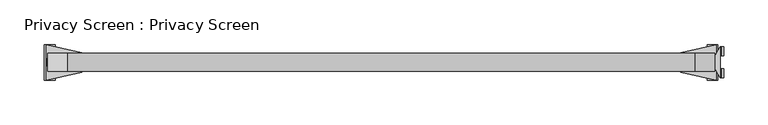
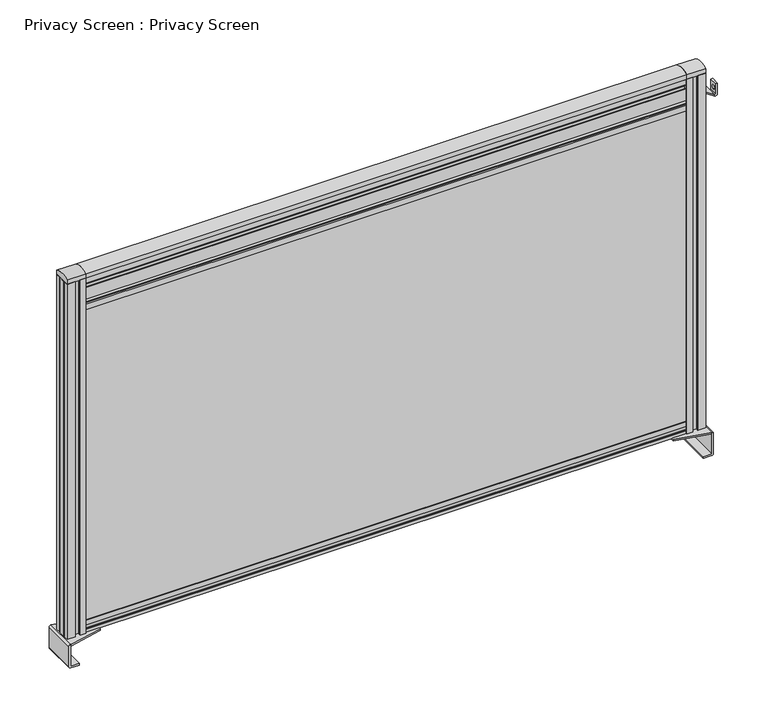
"""IFC4 building model written with IfcOpenShell, lengths in millimetres: furniture geometry, Privacy Screen : Privacy Screen."""

import ifcopenshell
import ifcopenshell.guid

model = None  # the IFC model being written
_history = None  # IfcOwnerHistory: only IFC2X3 demands one
_inside = {}  # id of a spatial element -> (the spatial element, [elements in it])
_under = {}  # id of a project, library or spatial element -> (it, [spatial elements below it])
_declared = {}  # id of a project -> (the project, [libraries it declares])
_typed = {}  # id of a type object -> (the type object, [elements of that type])
_made_of = {}  # id of a material, layer set ... -> (it, [elements and type objects made of it])


def new_model(schema):
    """Start an empty IFC model of exactly this schema.

    Asked for "IFC4X3", IfcOpenShell would pick the latest addendum, in which some entities
    have other attributes; the version numbers below select the first issue.
    IFC2X3 requires an IfcOwnerHistory on every rooted entity: one is made here for all.
    """
    global model, _history
    if schema == "IFC4X3":
        model = ifcopenshell.file(schema_version=(4, 3, 0, 0))
    else:
        model = ifcopenshell.file(schema=schema)
    _inside.clear()
    _under.clear()
    _declared.clear()
    _typed.clear()
    _made_of.clear()
    _history = None
    if model.schema == "IFC2X3":
        org = make("IfcOrganization", Name="unknown")
        user = make(
            "IfcPersonAndOrganization",
            ThePerson=make("IfcPerson", FamilyName="unknown"),
            TheOrganization=org,
        )
        app = make(
            "IfcApplication",
            ApplicationDeveloper=org,
            Version="unknown",
            ApplicationFullName="unknown",
            ApplicationIdentifier="unknown",
        )
        _history = make(
            "IfcOwnerHistory",
            OwningUser=user,
            OwningApplication=app,
            ChangeAction="ADDED",
            CreationDate=0,
        )
    return model


def make(cls, **values):
    """One entity of the class cls with the attributes given. An attribute that is None is left unset."""
    return model.create_entity(
        cls, **{name: value for name, value in values.items() if value is not None}
    )


def rooted(cls, **values):
    """An entity with a GlobalId (a new one), such as an element, a storey or a relation."""
    return make(cls, GlobalId=ifcopenshell.guid.new(), OwnerHistory=_history, **values)


def si_unit(unit_type, name, prefix=None):
    """IfcSIUnit, for example si_unit("LENGTHUNIT", "METRE", prefix="MILLI")."""
    return make("IfcSIUnit", UnitType=unit_type, Prefix=prefix, Name=name)


def assignment(units):
    """IfcUnitAssignment: the units of a project."""
    return None if units is None else make("IfcUnitAssignment", Units=units)


def point(xyz):
    """IfcCartesianPoint."""
    return None if xyz is None else make("IfcCartesianPoint", Coordinates=xyz)


def direction(xyz):
    """IfcDirection."""
    return None if xyz is None else make("IfcDirection", DirectionRatios=xyz)


def frame(location, z_axis=None, x_axis=None):
    """IfcAxis2Placement3D, a coordinate frame: its origin and axes. An axis left out is left unset."""
    return make(
        "IfcAxis2Placement3D",
        Location=point(location),
        Axis=direction(z_axis),
        RefDirection=direction(x_axis),
    )


def frame_2d(location, x_axis=None):
    """IfcAxis2Placement2D, a coordinate frame in the plane: its origin and x axis."""
    return make(
        "IfcAxis2Placement2D", Location=point(location), RefDirection=direction(x_axis)
    )


def origin():
    """The frame at (0, 0, 0) with its axes left unset."""
    return frame((0.0, 0.0, 0.0))


def place(relative_to, where):
    """IfcLocalPlacement: puts the frame where relative to a parent placement (None: the world)."""
    return make(
        "IfcLocalPlacement", PlacementRelTo=relative_to, RelativePlacement=where
    )


def context(
    kind, dimensions, precision=None, world=None, true_north=None, identifier=None
):
    """IfcGeometricRepresentationContext, for example the 3D "Model" context."""
    return make(
        "IfcGeometricRepresentationContext",
        ContextIdentifier=identifier,
        ContextType=kind,
        CoordinateSpaceDimension=dimensions,
        Precision=precision,
        WorldCoordinateSystem=world,
        TrueNorth=true_north,
    )


def project(units=None, contexts=None):
    """IfcProject with its units and contexts."""
    return rooted(
        "IfcProject",
        Name="project",
        RepresentationContexts=contexts,
        UnitsInContext=assignment(units),
    )


def spatial(cls, under=None, at=None, **own):
    """A site, building, storey or space (cls), placed at a placement, below another one or the project."""
    s = rooted(cls, ObjectPlacement=at, **own)
    if under is not None:
        _under.setdefault(under.id(), (under, []))[1].append(s)
    return s


def polyline(points):
    """IfcPolyline through the points."""
    return make("IfcPolyline", Points=[point(p) for p in points])


def circle_curve(where, radius):
    """IfcCircle in the frame where."""
    return make("IfcCircle", Position=where, Radius=radius)


def trimmed(basis, trim1, trim2, sense, master):
    """IfcTrimmedCurve: the piece of a basis curve between two trims."""
    return make(
        "IfcTrimmedCurve",
        BasisCurve=basis,
        Trim1=trim1,
        Trim2=trim2,
        SenseAgreement=sense,
        MasterRepresentation=master,
    )


def segment(curve, same_sense, transition):
    """IfcCompositeCurveSegment."""
    return make(
        "IfcCompositeCurveSegment",
        Transition=transition,
        SameSense=same_sense,
        ParentCurve=curve,
    )


def composite_curve(segments, self_intersect=None):
    """IfcCompositeCurve: segments joined end to end."""
    return make("IfcCompositeCurve", Segments=segments, SelfIntersect=self_intersect)


def outline(outer, holes=None, kind="AREA"):
    """IfcArbitraryClosedProfileDef: a profile drawn as a closed curve; with holes, ...WithVoids."""
    if holes is None:
        return make("IfcArbitraryClosedProfileDef", ProfileType=kind, OuterCurve=outer)
    return make(
        "IfcArbitraryProfileDefWithVoids",
        ProfileType=kind,
        OuterCurve=outer,
        InnerCurves=holes,
    )


def extrude(swept, where, along, depth):
    """IfcExtrudedAreaSolid: the profile swept, set in the frame where, extruded along a direction by depth."""
    return make(
        "IfcExtrudedAreaSolid",
        SweptArea=swept,
        Position=where,
        ExtrudedDirection=direction(along),
        Depth=depth,
    )


def shape(context_of_items, identifier, shape_type, items):
    """IfcShapeRepresentation: the items that make up one representation, for example the "Body"."""
    return make(
        "IfcShapeRepresentation",
        ContextOfItems=context_of_items,
        RepresentationIdentifier=identifier,
        RepresentationType=shape_type,
        Items=items,
    )


def source(mapping_origin, context_of_items, identifier, shape_type, items):
    """IfcRepresentationMap: a shape defined once, which mapped items show again and again."""
    return make(
        "IfcRepresentationMap",
        MappingOrigin=mapping_origin,
        MappedRepresentation=shape(context_of_items, identifier, shape_type, items),
    )


def transform(
    local_origin,
    x_axis=None,
    y_axis=None,
    z_axis=None,
    scale=None,
    scale2=None,
    scale3=None,
    uniform=True,
):
    """IfcCartesianTransformationOperator3D, or its non-uniform kind. x_axis, y_axis, z_axis: its Axis1, 2, 3."""
    if uniform:
        return make(
            "IfcCartesianTransformationOperator3D",
            Axis1=direction(x_axis),
            Axis2=direction(y_axis),
            LocalOrigin=point(local_origin),
            Scale=scale,
            Axis3=direction(z_axis),
        )
    return make(
        "IfcCartesianTransformationOperator3DnonUniform",
        Axis1=direction(x_axis),
        Axis2=direction(y_axis),
        LocalOrigin=point(local_origin),
        Scale=scale,
        Axis3=direction(z_axis),
        Scale2=scale2,
        Scale3=scale3,
    )


def mapped(mapping_source, mapping_target):
    """IfcMappedItem: shows the shape of a source again, moved by a transform."""
    return make(
        "IfcMappedItem", MappingSource=mapping_source, MappingTarget=mapping_target
    )


def made_of(thing, what):
    """Note that an element or type object is made of a material, layer set ...; save() writes the relation."""
    if what is not None:
        _made_of.setdefault(what.id(), (what, []))[1].append(thing)
    return thing


def element(
    cls,
    number,
    at=None,
    inside=None,
    cuts=None,
    type_object=None,
    material=None,
    context=None,
    identifier="Body",
    shape_type=None,
    held_by="IfcProductDefinitionShape",
    body=None,
    shapes=None,
    **own,
):
    """One element of the class cls, such as IfcWall. Its Tag is "e" and its number.

    at: its placement. inside: the storey or other place that contains it. cuts: it is an
    opening in that element (IfcRelVoidsElement). A single representation is given by context,
    identifier, shape_type and body (its items); several are given by shapes. held_by: the class
    of the entity that holds the representations. save() writes the other relations.
    """
    e = rooted(cls, Tag="e%d" % number, ObjectPlacement=at, **own)
    if body is not None:
        shapes = [shape(context, identifier, shape_type, body)]
    if shapes is not None:
        e.Representation = make(held_by, Representations=shapes)
    if inside is not None:
        _inside.setdefault(inside.id(), (inside, []))[1].append(e)
    if cuts is not None:
        rooted(
            "IfcRelVoidsElement", RelatingBuildingElement=cuts, RelatedOpeningElement=e
        )
    if type_object is not None:
        _typed.setdefault(type_object.id(), (type_object, []))[1].append(e)
    return made_of(e, material)


def aggregate(whole, parts):
    """IfcRelAggregates: a whole, such as a stair, and the parts it consists of."""
    return rooted("IfcRelAggregates", RelatingObject=whole, RelatedObjects=parts)


def save(model, path):
    """Write the relations noted so far, then the file.

    IfcRelAggregates (storeys below a building ...), IfcRelContainedInSpatialStructure (elements
    in a storey), IfcRelDefinesByType, IfcRelAssociatesMaterial and IfcRelDeclares: one each for
    every whole, place, type object, material and project.
    """
    for whole, parts in _under.values():
        aggregate(whole, parts)
    for where, things in _inside.values():
        rooted(
            "IfcRelContainedInSpatialStructure",
            RelatedElements=things,
            RelatingStructure=where,
        )
    for kind, things in _typed.values():
        rooted("IfcRelDefinesByType", RelatedObjects=things, RelatingType=kind)
    for what, things in _made_of.values():
        rooted("IfcRelAssociatesMaterial", RelatedObjects=things, RelatingMaterial=what)
    for by, libraries in _declared.values():
        rooted("IfcRelDeclares", RelatingContext=by, RelatedDefinitions=libraries)
    model.write(path)


def plane_surface(at):
    """IfcPlane: the flat surface through the origin of the frame at, square to its z axis."""
    return make("IfcPlane", Position=at)


def cylinder_surface(at, radius):
    """IfcCylindricalSurface: all points at the distance radius from the z axis of the frame at."""
    return make("IfcCylindricalSurface", Position=at, Radius=radius)


def revolved_surface(curve, axis_point, axis_direction):
    """IfcSurfaceOfRevolution: the curve turned about the line through axis_point along axis_direction."""
    return make(
        "IfcSurfaceOfRevolution",
        SweptCurve=make("IfcArbitraryOpenProfileDef", ProfileType="CURVE", Curve=curve),
        AxisPosition=make("IfcAxis1Placement", Location=point(axis_point), Axis=direction(axis_direction)),
    )


def advanced_brep(points, edges, surfaces, faces):
    """IfcAdvancedBrep: a solid bounded by faces that lie on surfaces and meet in shared edges.

    An edge is (start, end): straight between two places in points (the first is 0);
    or (start, end, curve); or (start, end, curve, False) where it runs against its curve.
    A face is (place in surfaces, loops), or (place, loops, False) where it looks against
    its surface's normal. A loop lists edges by number (the first is 1), with a minus sign
    where the edge is run from its end to its start. The first loop is the outer one.
    """
    corners = [point(p) for p in points]
    vertices = [make("IfcVertexPoint", VertexGeometry=c) for c in corners]
    made = []
    for start, end, *more in edges:
        made.append(
            make(
                "IfcEdgeCurve",
                EdgeStart=vertices[start],
                EdgeEnd=vertices[end],
                EdgeGeometry=more[0] if more else make("IfcPolyline", Points=[corners[start], corners[end]]),
                SameSense=more[1] if len(more) > 1 else True,
            )
        )
    hull = []
    for where, loops, *sense in faces:
        bounds = []
        for j, loop in enumerate(loops):
            ring = [make("IfcOrientedEdge", EdgeElement=made[abs(k) - 1], Orientation=k > 0) for k in loop]
            bounds.append(
                make(
                    "IfcFaceOuterBound" if j == 0 else "IfcFaceBound",
                    Bound=make("IfcEdgeLoop", EdgeList=ring),
                    Orientation=True,
                )
            )
        hull.append(make("IfcAdvancedFace", Bounds=bounds, FaceSurface=surfaces[where], SameSense=sense[0] if sense else True))
    return make("IfcAdvancedBrep", Outer=make("IfcClosedShell", CfsFaces=hull))


def privacy_screen_privacy_screen_7e7c204a(model_context):
    return source(origin(), model_context, "Body", "SolidModel", [
        advanced_brep(
        [(366.4944855, -19.9999715, 2.0000233), (366.4944855, -19.9999715, 0.0), (376.468981, -19.9999715, 0.0), (378.4944855, -19.9999715, 2.0255045), (378.4944855, -19.9999715, 26.9663989), (376.4609103, -19.9999715, 28.9999741), (376.4606582, -19.9999715, 27.0000235), (376.4944856, -19.9999715, 2.0000233), (366.4944855, 20.0000283, 2.0000233), (376.4944856, 20.0000283, 2.0000233), (376.4944856, 20.0000283, 27.0000235), (376.4609103, 20.0000283, 28.9999741), (378.4944855, 20.0000283, 26.9663989), (378.4944855, 20.0000283, 2.0255045), (376.468981, 20.0000283, 0.0), (366.4944855, 20.0000283, 0.0), (336.4944856, -11.0000282, 27.0000235), (336.4944856, 11.0000282, 27.0000235), (336.4944856, -11.0000282, 28.9999741), (336.4944856, 11.0000282, 28.9999741)],
        [
            (0, 1),
            (1, 2),
            (2, 3, circle_curve(frame((376.468981, -19.9999715, 2.0255045), z_axis=(0.0, -1.0, 0.0), x_axis=(-1.0, 0.0, 0.0)), 2.0255045)),
            (3, 4),
            (4, 5, circle_curve(frame((376.4609103, -19.9999715, 26.9663989), z_axis=(0.0, -1.0, 0.0), x_axis=(-1.0, 0.0, 0.0)), 2.0335751)),
            (5, 6),
            (6, 7),
            (7, 0),
            (8, 9),
            (9, 10),
            (10, 11),
            (11, 12, circle_curve(frame((376.4609103, 20.0000283, 26.9663989), z_axis=(0.0, 1.0, 0.0), x_axis=(-1.0, 0.0, 0.0)), 2.0335751)),
            (12, 13),
            (13, 14, circle_curve(frame((376.468981, 20.0000283, 2.0255045), z_axis=(0.0, 1.0, 0.0), x_axis=(-1.0, 0.0, 0.0)), 2.0255045)),
            (14, 15),
            (15, 8),
            (7, 9),
            (8, 0),
            (6, 10),
            (6, 16),
            (16, 17),
            (17, 10),
            (16, 18),
            (18, 19),
            (19, 17),
            (5, 11),
            (11, 19),
            (18, 5),
            (4, 12),
            (3, 13),
            (2, 14),
            (1, 15),
        ],
        [
            plane_surface(frame((366.4944855, -19.9999715, 2.0000233), z_axis=(0.0, -1.0, 0.0), x_axis=(0.0, 0.0, -1.0))),
            plane_surface(frame((366.4944855, 20.0000283, 2.0000233), z_axis=(0.0, 1.0, 0.0), x_axis=(0.0, 0.0, 1.0))),
            plane_surface(frame((376.4944856, -19.9999715, 2.0000233), z_axis=(0.0, 0.0, 1.0), x_axis=(0.0, 1.0, 0.0))),
            plane_surface(frame((376.4944856, -19.9999715, 27.0000235), z_axis=(-1.0, 0.0, 0.0), x_axis=(0.0, 1.0, 0.0))),
            plane_surface(frame((336.4944856, -19.9999715, 27.0000235), z_axis=(0.0, 0.0, -1.0), x_axis=(0.0, 1.0, 0.0))),
            plane_surface(frame((336.4944856, -19.9999715, 28.9999741), z_axis=(-1.0, 0.0, 0.0), x_axis=(0.0, 1.0, 0.0))),
            plane_surface(frame((376.4609103, -19.9999715, 28.9999741), z_axis=(0.0, 0.0, 1.0), x_axis=(0.0, 1.0, 0.0))),
            cylinder_surface(frame((376.4609103, 20.0000283, 26.9663989), z_axis=(0.0, -1.0, 0.0), x_axis=(-1.0, 0.0, 0.0)), 2.0335751),
            plane_surface(frame((378.4944855, -19.9999715, 2.0255045), z_axis=(1.0, 0.0, 0.0), x_axis=(0.0, 1.0, 0.0))),
            cylinder_surface(frame((376.468981, 20.0000283, 2.0255045), z_axis=(0.0, -1.0, 0.0), x_axis=(-1.0, 0.0, 0.0)), 2.0255045),
            plane_surface(frame((366.4944855, -19.9999715, 0.0), z_axis=(0.0, 0.0, -1.0), x_axis=(0.0, 1.0, 0.0))),
            plane_surface(frame((366.4944855, -19.9999715, 2.0000233), z_axis=(-1.0, 0.0, 0.0), x_axis=(0.0, 1.0, 0.0))),
            plane_surface(frame((336.4944856, 11.0000282, 29.0000376), z_axis=(-0.21968771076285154, 0.9755702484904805, 0.0), x_axis=(0.0, 0.0, -1.0))),
            plane_surface(frame((376.4609103, -20.0000283, 29.0000376), z_axis=(-0.21968771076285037, -0.9755702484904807, 0.0), x_axis=(0.0, 0.0, -1.0))),
        ],
        [
            (0, [[1, 2, 3, 4, 5, 6, 7, 8]]),
            (1, [[9, 10, 11, 12, 13, 14, 15, 16]]),
            (2, [[-8, 17, -9, 18]]),
            (3, [[-7, 19, -10, -17]]),
            (4, [[-19, 20, 21, 22]]),
            (5, [[-21, 23, 24, 25]]),
            (6, [[26, 27, -24, 28]]),
            (7, [[-5, 29, -12, -26]]),
            (8, [[-4, 30, -13, -29]]),
            (9, [[-3, 31, -14, -30]]),
            (10, [[-2, 32, -15, -31]]),
            (11, [[-1, -18, -16, -32]]),
            (12, [[-11, -22, -25, -27]]),
            (13, [[-6, -28, -23, -20]]),
        ],
    ),
        extrude(outline(composite_curve([segment(polyline([(-375.1999849, -4.3791787), (-375.1999849, 4.3791787)]), True, "CONTINUOUS"), segment(trimmed(circle_curve(frame_2d((-374.6791323, 4.3791787)), 0.5208527), [point((-375.1999849, 4.3791787))], [point((-374.6791323, 4.9000313))], False, "CARTESIAN"), True, "CONTINUOUS"), segment(polyline([(-374.6791323, 4.9000313), (-373.2066401, 4.9000313)]), True, "CONTINUOUS"), segment(trimmed(circle_curve(frame_2d((-372.2008948, 3.9399621)), 1.390416), [point((-373.2066401, 4.9000313))], [point((-371.1951495, 4.9000313))], False, "CARTESIAN"), True, "CONTINUOUS"), segment(polyline([(-371.1951495, 4.9000313), (-370.1878887, 4.9000313)]), True, "CONTINUOUS"), segment(trimmed(circle_curve(frame_2d((-370.1878887, 4.4746588)), 0.4253725), [point((-370.1878887, 4.9000313))], [point((-369.7981249, 4.3042889))], False, "CARTESIAN"), True, "CONTINUOUS"), segment(polyline([(-369.7981249, 4.3042889), (-370.7134472, 2.2102598), (-373.4676185, 2.2899413), (-372.599985, 4.3000316), (-374.1999849, 4.2000321), (-374.1999849, -4.2000321), (-372.599985, -4.3000316), (-373.4676185, -2.2899413), (-370.7134472, -2.2102598), (-369.7981249, -4.3042889)]), True, "CONTINUOUS"), segment(trimmed(circle_curve(frame_2d((-370.1878887, -4.4746588)), 0.4253725), [point((-369.7981249, -4.3042889))], [point((-370.1878887, -4.9000313))], False, "CARTESIAN"), True, "CONTINUOUS"), segment(polyline([(-370.1878887, -4.9000313), (-371.1951495, -4.9000313)]), True, "CONTINUOUS"), segment(trimmed(circle_curve(frame_2d((-372.2008948, -3.9399621)), 1.390416), [point((-371.1951495, -4.9000313))], [point((-373.2066401, -4.9000313))], False, "CARTESIAN"), True, "CONTINUOUS"), segment(polyline([(-373.2066401, -4.9000313), (-374.6791323, -4.9000313)]), True, "CONTINUOUS"), segment(trimmed(circle_curve(frame_2d((-374.6791323, -4.3791787)), 0.5208527), [point((-374.6791323, -4.9000313))], [point((-375.1999849, -4.3791787))], False, "CARTESIAN"), True, "CONTINUOUS")], self_intersect=False)), frame((0.0, 0.0, 28.9999741), z_axis=(0.0, 0.0, 1.0), x_axis=(1.0, 0.0, 0.0)), (0.0, 0.0, 1.0), 441.0000259),
        extrude(outline(composite_curve([segment(trimmed(circle_curve(frame_2d((374.6791323, -4.3791787)), 0.5208527), [point((375.1999849, -4.3791787))], [point((374.6791323, -4.9000313))], False, "CARTESIAN"), True, "CONTINUOUS"), segment(polyline([(374.6791323, -4.9000313), (373.2066401, -4.9000313)]), True, "CONTINUOUS"), segment(trimmed(circle_curve(frame_2d((372.2008948, -3.9399621)), 1.390416), [point((373.2066401, -4.9000313))], [point((371.1951495, -4.9000313))], False, "CARTESIAN"), True, "CONTINUOUS"), segment(polyline([(371.1951495, -4.9000313), (370.1878887, -4.9000313)]), True, "CONTINUOUS"), segment(trimmed(circle_curve(frame_2d((370.1878887, -4.4746588)), 0.4253725), [point((370.1878887, -4.9000313))], [point((369.7981249, -4.3042889))], False, "CARTESIAN"), True, "CONTINUOUS"), segment(polyline([(369.7981249, -4.3042889), (370.7134472, -2.2102598), (373.4676185, -2.2899413), (372.599985, -4.3000316), (374.1999849, -4.2000321), (374.1999849, 4.2000321), (372.599985, 4.3000316), (373.4676185, 2.2899413), (370.7134472, 2.2102598), (369.7981249, 4.3042889)]), True, "CONTINUOUS"), segment(trimmed(circle_curve(frame_2d((370.1878887, 4.4746588)), 0.4253725), [point((369.7981249, 4.3042889))], [point((370.1878887, 4.9000313))], False, "CARTESIAN"), True, "CONTINUOUS"), segment(polyline([(370.1878887, 4.9000313), (371.1951495, 4.9000313)]), True, "CONTINUOUS"), segment(trimmed(circle_curve(frame_2d((372.2008948, 3.9399621)), 1.390416), [point((371.1951495, 4.9000313))], [point((373.2066401, 4.9000313))], False, "CARTESIAN"), True, "CONTINUOUS"), segment(polyline([(373.2066401, 4.9000313), (374.6791323, 4.9000313)]), True, "CONTINUOUS"), segment(trimmed(circle_curve(frame_2d((374.6791323, 4.3791787)), 0.5208527), [point((374.6791323, 4.9000313))], [point((375.1999849, 4.3791787))], False, "CARTESIAN"), True, "CONTINUOUS"), segment(polyline([(375.1999849, 4.3791787), (375.1999849, -4.3791787)]), True, "CONTINUOUS")], self_intersect=False)), frame((0.0, 0.0, 28.9999741), z_axis=(0.0, 0.0, 1.0), x_axis=(1.0, 0.0, 0.0)), (0.0, 0.0, 1.0), 441.0000259),
        extrude(outline(polyline([(-375.0, 10.2500284), (-365.500003, 10.2500284), (-365.500003, 9.0499961), (-368.6000108, 9.0499961), (-368.6000108, 5.7500124), (-356.9999938, 5.7500124), (-356.9999938, 9.0499961), (-360.000014, 9.0499961), (-360.000014, 10.2500284), (-352.9999984, 10.2500284), (-352.9999984, 9.0499961), (-355.8000023, 9.0499961), (-355.8000023, -9.0499985), (-352.9999984, -9.0499985), (-352.9999984, -10.2500284), (-360.000014, -10.2500284), (-360.000014, -9.0499985), (-356.9999938, -9.0499985), (-356.9999938, -5.7500132), (-368.6000108, -5.7500132), (-368.6000108, -9.0499985), (-365.500003, -9.0499985), (-365.500003, -10.2500284), (-375.0, -10.2500284), (-375.0, -4.8000011), (-373.8000095, -4.8000011), (-373.8000095, -9.0499985), (-369.8000012, -9.0499985), (-369.8000012, 9.0499961), (-373.8000095, 9.0499961), (-373.8000095, 4.8), (-375.0, 4.8), (-375.0, 10.2500284)])), frame((0.0, 0.0, 28.9999741), z_axis=(0.0, 0.0, 1.0), x_axis=(1.0, 0.0, 0.0)), (0.0, 0.0, 1.0), 441.0000259),
        extrude(outline(polyline([(375.0, 10.2500284), (375.0, 4.8), (373.8000095, 4.8), (373.8000095, 9.0499961), (369.8000012, 9.0499961), (369.8000012, -9.0499985), (373.8000095, -9.0499985), (373.8000095, -4.8000011), (375.0, -4.8000011), (375.0, -10.2500284), (365.500003, -10.2500284), (365.500003, -9.0499985), (368.6000108, -9.0499985), (368.6000108, -5.7500132), (356.9999938, -5.7500132), (356.9999938, -9.0499985), (360.000014, -9.0499985), (360.000014, -10.2500284), (352.9999984, -10.2500284), (352.9999984, -9.0499985), (355.800016, -9.0499985), (355.800016, 9.0499961), (352.9999984, 9.0499961), (352.9999984, 10.2500284), (360.000014, 10.2500284), (360.000014, 9.0499961), (356.9999938, 9.0499961), (356.9999938, 5.7500124), (368.6000108, 5.7500124), (368.6000108, 9.0499961), (365.500003, 9.0499961), (365.500003, 10.2500284), (375.0, 10.2500284)])), frame((0.0, 0.0, 28.9999741), z_axis=(0.0, 0.0, 1.0), x_axis=(1.0, 0.0, 0.0)), (0.0, 0.0, 1.0), 441.0000259),
        advanced_brep(
        [(384.8000052, -17.2499708, 457.9999979), (382.8000198, -17.2499708, 457.9999979), (382.8000198, -17.2499708, 445.9999685), (381.8000432, -17.2499708, 444.999992), (381.2999667, -17.2499708, 444.999992), (381.2999667, -17.2499708, 442.9999692), (381.8000432, -17.2499708, 442.9999692), (384.8000052, -17.2499708, 445.9999312), (384.8000052, 17.2500281, 457.9999979), (384.8000052, 17.2500281, 445.9999312), (381.8000432, 17.2500281, 442.9999692), (381.3000011, 17.2500281, 442.9999692), (381.3000011, 17.2500281, 444.999992), (381.8000432, 17.2500281, 444.999992), (382.8000198, 17.2500281, 445.9999685), (382.8000198, 17.2500281, 457.9999979), (384.8000052, -7.2499708, 457.9999979), (382.8000198, -7.2499708, 457.9999979), (382.8000198, 7.2500287, 457.9999979), (384.8000052, 7.2500287, 457.9999979), (382.8000198, -7.2499708, 445.9999685), (382.8000198, -12.2499707, 453.8937217), (382.8000198, -12.2499707, 448.906353), (382.8000198, 7.2500287, 445.9999685), (382.8000198, 12.2500285, 453.8937217), (382.8000198, 12.2500285, 448.906353), (381.8000432, -7.2499708, 444.999992), (381.8000432, 7.2500287, 444.999992), (381.3000011, -7.2499708, 444.999992), (381.3000011, 7.2500287, 444.999992), (373.6674727, 4.5024811, 444.999992), (372.7999856, 4.0000292, 444.999992), (372.7999856, -4.0000292, 444.999992), (373.6674727, -4.5024811, 444.999992), (369.8000012, 4.0000292, 442.0000075), (369.8000012, -4.0000292, 442.0000075), (369.8000012, 4.0000292, 434.1000032), (369.8000012, -4.0000292, 434.1000032), (371.7999995, 4.0000292, 434.1000032), (371.7999995, -4.0000292, 434.1000032), (371.8000225, 4.0000292, 442.0000027), (371.8000225, -4.0000292, 442.0000027), (372.7999891, 4.0000292, 442.9999692), (372.7999891, -4.0000292, 442.9999692), (373.6674727, -4.5024811, 442.9999692), (373.6674727, 4.5024811, 442.9999692), (381.8000432, 7.2500287, 442.9999692), (381.3000011, 7.2500287, 442.9999692), (381.3000011, -7.2499708, 442.9999692), (381.8000432, -7.2499708, 442.9999692), (384.8000052, -7.2499708, 445.9999312), (384.8000052, 7.2500287, 445.9999312), (384.8000052, -12.2499707, 448.906353), (384.8000052, -12.2499707, 453.8937217), (384.8000052, 12.2500285, 448.906353), (384.8000052, 12.2500285, 453.8937217)],
        [
            (0, 1),
            (1, 2),
            (2, 3, circle_curve(frame((381.8000432, -17.2499708, 445.9999685), z_axis=(0.0, 1.0, 0.0), x_axis=(1.0, 0.0, 0.0)), 0.9999765)),
            (3, 4),
            (4, 5),
            (5, 6),
            (6, 7, circle_curve(frame((381.8000432, -17.2499708, 445.9999312), z_axis=(0.0, -1.0, 0.0), x_axis=(1.0, 0.0, 0.0)), 2.999962)),
            (7, 0),
            (8, 9),
            (9, 10, circle_curve(frame((381.8000432, 17.2500281, 445.9999312), z_axis=(0.0, 1.0, 0.0), x_axis=(1.0, 0.0, 0.0)), 2.999962)),
            (10, 11),
            (11, 12),
            (12, 13),
            (13, 14, circle_curve(frame((381.8000432, 17.2500281, 445.9999685), z_axis=(0.0, -1.0, 0.0), x_axis=(1.0, 0.0, 0.0)), 0.9999765)),
            (14, 15),
            (15, 8),
            (0, 16),
            (16, 17),
            (17, 1),
            (15, 18),
            (18, 19),
            (19, 8),
            (17, 20),
            (20, 2),
            (21, 22, circle_curve(frame((382.8000198, -12.2499707, 451.4000374), z_axis=(1.0, 0.0, 0.0), x_axis=(0.0, 0.0, 1.0)), 2.4936843)),
            (22, 21, circle_curve(frame((382.8000198, -12.2499707, 451.4000374), z_axis=(1.0, 0.0, 0.0), x_axis=(0.0, 0.0, 1.0)), 2.4936843)),
            (14, 23),
            (23, 18),
            (24, 25, circle_curve(frame((382.8000198, 12.2500285, 451.4000374), z_axis=(1.0, 0.0, 0.0), x_axis=(0.0, 0.0, 1.0)), 2.4936843)),
            (25, 24, circle_curve(frame((382.8000198, 12.2500285, 451.4000374), z_axis=(1.0, 0.0, 0.0), x_axis=(0.0, 0.0, 1.0)), 2.4936843)),
            (20, 26, circle_curve(frame((381.8000432, -7.2499708, 445.9999685), z_axis=(0.0, 1.0, 0.0), x_axis=(1.0, 0.0, 0.0)), 0.9999765)),
            (26, 3),
            (13, 27),
            (27, 23, circle_curve(frame((381.8000432, 7.2500287, 445.9999685), z_axis=(0.0, -1.0, 0.0), x_axis=(1.0, 0.0, 0.0)), 0.9999765)),
            (26, 28),
            (28, 29),
            (29, 27),
            (12, 30),
            (30, 31, circle_curve(frame((372.8000222, 5.0000536, 444.999992), z_axis=(0.0, 0.0, -1.0), x_axis=(0.0, 1.0, 0.0)), 1.0000244)),
            (31, 32),
            (32, 33, circle_curve(frame((372.8000222, -5.0000536, 444.999992), z_axis=(0.0, 0.0, -1.0), x_axis=(0.0, 1.0, 0.0)), 1.0000244)),
            (33, 4),
            (31, 34, circle_curve(frame((372.7999856, 4.0000292, 442.0000075), z_axis=(0.0, -1.0, 0.0), x_axis=(1.0, 0.0, 0.0)), 2.9999845)),
            (34, 35),
            (35, 32, circle_curve(frame((372.7999856, -4.0000292, 442.0000075), z_axis=(0.0, 1.0, 0.0), x_axis=(1.0, 0.0, 0.0)), 2.9999845)),
            (34, 36),
            (36, 37),
            (37, 35),
            (36, 38),
            (38, 39),
            (39, 37),
            (38, 40),
            (40, 41),
            (41, 39),
            (40, 42, circle_curve(frame((372.799989, 4.0000292, 442.0000027), z_axis=(0.0, 1.0, 0.0), x_axis=(1.0, 0.0, 0.0)), 0.9999664)),
            (42, 43),
            (43, 41, circle_curve(frame((372.799989, -4.0000292, 442.0000027), z_axis=(0.0, -1.0, 0.0), x_axis=(1.0, 0.0, 0.0)), 0.9999664)),
            (5, 44),
            (44, 43, circle_curve(frame((372.8000222, -5.0000536, 442.9999692), z_axis=(0.0, 0.0, 1.0), x_axis=(0.0, 1.0, 0.0)), 1.0000244)),
            (42, 45, circle_curve(frame((372.8000222, 5.0000536, 442.9999692), z_axis=(0.0, 0.0, 1.0), x_axis=(0.0, 1.0, 0.0)), 1.0000244)),
            (45, 11),
            (10, 46),
            (46, 47),
            (47, 48),
            (48, 49),
            (49, 6),
            (49, 50, circle_curve(frame((381.8000432, -7.2499708, 445.9999312), z_axis=(0.0, -1.0, 0.0), x_axis=(1.0, 0.0, 0.0)), 2.999962)),
            (50, 7),
            (9, 51),
            (51, 46, circle_curve(frame((381.8000432, 7.2500287, 445.9999312), z_axis=(0.0, 1.0, 0.0), x_axis=(1.0, 0.0, 0.0)), 2.999962)),
            (50, 16),
            (52, 53, circle_curve(frame((384.8000052, -12.2499707, 451.4000374), z_axis=(-1.0, 0.0, 0.0), x_axis=(0.0, 0.0, 1.0)), 2.4936843)),
            (53, 52, circle_curve(frame((384.8000052, -12.2499707, 451.4000374), z_axis=(-1.0, 0.0, 0.0), x_axis=(0.0, 0.0, 1.0)), 2.4936843)),
            (19, 51),
            (54, 55, circle_curve(frame((384.8000052, 12.2500285, 451.4000374), z_axis=(-1.0, 0.0, 0.0), x_axis=(0.0, 0.0, 1.0)), 2.4936843)),
            (55, 54, circle_curve(frame((384.8000052, 12.2500285, 451.4000374), z_axis=(-1.0, 0.0, 0.0), x_axis=(0.0, 0.0, 1.0)), 2.4936843)),
            (42, 31),
            (30, 45),
            (33, 44),
            (43, 32),
            (28, 48),
            (47, 29),
            (21, 53),
            (52, 22),
            (24, 55),
            (54, 25),
        ],
        [
            plane_surface(frame((382.8000198, -17.2499708, 457.9999979), z_axis=(0.0, -1.0, 0.0), x_axis=(-1.0, 0.0, 0.0))),
            plane_surface(frame((382.8000198, 17.2500281, 457.9999979), z_axis=(0.0, 1.0, 0.0), x_axis=(1.0, 0.0, 0.0))),
            plane_surface(frame((384.8000052, -17.2499708, 457.9999979), z_axis=(0.0, 0.0, 1.0), x_axis=(0.0, 1.0, 0.0))),
            plane_surface(frame((382.8000198, -17.2499708, 457.9999979), z_axis=(-1.0, 0.0, 0.0), x_axis=(0.0, 1.0, 0.0))),
            revolved_surface(polyline([(382.8000197, -7.2499708, 445.9999685), (382.8000197, -17.2499708, 445.9999685)]), (381.8000432, 17.2500281, 445.9999685), (0.0, 1.0, 0.0)),
            revolved_surface(polyline([(382.8000197, 17.2500281, 445.9999685), (382.8000197, 7.2500287, 445.9999685)]), (381.8000432, 17.2500281, 445.9999685), (0.0, 1.0, 0.0)),
            plane_surface(frame((381.8000432, -17.2499708, 444.999992), z_axis=(0.0, 0.0, 1.0), x_axis=(0.0, 1.0, 0.0))),
            cylinder_surface(frame((372.7999856, 17.2500281, 442.0000075), z_axis=(0.0, -1.0, 0.0), x_axis=(1.0, 0.0, 0.0)), 2.9999845),
            plane_surface(frame((369.8000012, -17.2499708, 442.0000075), z_axis=(-1.0, 0.0, 0.0), x_axis=(0.0, 1.0, 0.0))),
            plane_surface(frame((369.8000012, -17.2499708, 434.1000032), z_axis=(0.0, 0.0, -1.0), x_axis=(0.0, 1.0, 0.0))),
            plane_surface(frame((371.7999995, -17.2499708, 434.1000032), z_axis=(0.99999999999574, 0.0, -2.9189275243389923e-06), x_axis=(0.0, 1.0, 0.0))),
            revolved_surface(polyline([(373.7999554, 4.0000292, 442.0000027), (373.7999554, -4.0000292, 442.0000027)]), (372.799989, 17.2500281, 442.0000027), (0.0, 1.0, 0.0)),
            plane_surface(frame((372.7999891, -17.2499708, 442.9999692), z_axis=(0.0, 0.0, -1.0), x_axis=(0.0, 1.0, 0.0))),
            cylinder_surface(frame((381.8000432, 17.2500281, 445.9999312), z_axis=(0.0, -1.0, 0.0), x_axis=(1.0, 0.0, 0.0)), 2.999962),
            plane_surface(frame((384.8000052, -17.2499708, 445.9999312), z_axis=(1.0, 0.0, 0.0), x_axis=(0.0, 1.0, 0.0))),
            revolved_surface(polyline([(372.8000222, 6.000078, 442.9999692), (372.8000222, 6.000078, 444.999992)]), (372.8000222, 5.0000536, 444.999992), (0.0, 0.0, -1.0)),
            plane_surface(frame((372.8000222, 4.0000292, 434.1000032), z_axis=(0.0, 1.0, 0.0), x_axis=(0.0, 0.0, 1.0))),
            plane_surface(frame((381.3000011, 17.2500281, 434.1000032), z_axis=(-0.8579676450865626, 0.5137037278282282, 0.0), x_axis=(0.0, 0.0, 1.0))),
            plane_surface(frame((373.6674727, -4.5024811, 434.1000032), z_axis=(-0.8579676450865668, -0.513703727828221, 0.0), x_axis=(0.0, 0.0, 1.0))),
            plane_surface(frame((369.8000012, -4.0000292, 434.1000032), z_axis=(0.0, -1.0, 0.0), x_axis=(0.0, 0.0, 1.0))),
            revolved_surface(polyline([(372.8000222, -4.0000292, 442.9999692), (372.8000222, -4.0000292, 444.999992)]), (372.8000222, -5.0000536, 444.999992), (0.0, 0.0, -1.0)),
            plane_surface(frame((381.3000011, -7.2499708, 443.0000357), z_axis=(1.0, 0.0, 0.0), x_axis=(0.0, 0.0, 1.0))),
            plane_surface(frame((384.8000055, -7.2499708, 443.0000357), z_axis=(0.0, 1.0, 0.0), x_axis=(0.0, 0.0, 1.0))),
            plane_surface(frame((381.3000011, 7.2500287, 443.0000357), z_axis=(0.0, -1.0, 0.0), x_axis=(0.0, 0.0, 1.0))),
            revolved_surface(polyline([(382.8000198, -12.2499707, 453.89372169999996), (384.8000052, -12.2499707, 453.89372169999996)]), (384.8000052, -12.2499707, 451.4000374), (-1.0, 0.0, 0.0)),
            revolved_surface(polyline([(382.8000198, 12.2500285, 453.89372169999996), (384.8000052, 12.2500285, 453.89372169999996)]), (384.8000052, 12.2500285, 451.4000374), (-1.0, 0.0, 0.0)),
        ],
        [
            (0, [[1, 2, 3, 4, 5, 6, 7, 8]]),
            (1, [[9, 10, 11, 12, 13, 14, 15, 16]]),
            (2, [[-1, 17, 18, 19]]),
            (2, [[-16, 20, 21, 22]]),
            (3, [[-2, -19, 23, 24], [25, 26]]),
            (3, [[-15, 27, 28, -20], [29, 30]]),
            (4, [[-3, -24, 31, 32]]),
            (5, [[-14, 33, 34, -27]]),
            (6, [[-4, -32, 35, 36, 37, -33, -13, 38, 39, 40, 41, 42]]),
            (7, [[-40, 43, 44, 45]]),
            (8, [[-44, 46, 47, 48]]),
            (9, [[-47, 49, 50, 51]]),
            (10, [[-50, 52, 53, 54]]),
            (11, [[-53, 55, 56, 57]]),
            (12, [[-6, 58, 59, -56, 60, 61, -11, 62, 63, 64, 65, 66]]),
            (13, [[-7, -66, 67, 68]]),
            (13, [[-10, 69, 70, -62]]),
            (14, [[-8, -68, 71, -17], [72, 73]]),
            (14, [[-9, -22, 74, -69], [75, 76]]),
            (15, [[77, -39, 78, -60]]),
            (16, [[-77, -55, -52, -49, -46, -43]]),
            (17, [[-78, -38, -12, -61]]),
            (18, [[79, -58, -5, -42]]),
            (19, [[80, -45, -48, -51, -54, -57]]),
            (20, [[-80, -59, -79, -41]]),
            (21, [[81, -64, 82, -36]]),
            (22, [[-81, -35, -31, -23, -18, -71, -67, -65]]),
            (23, [[-82, -63, -70, -74, -21, -28, -34, -37]]),
            (24, [[83, -72, 84, -25]]),
            (24, [[-83, -26, -84, -73]]),
            (25, [[85, -75, 86, -29]]),
            (25, [[-85, -30, -86, -76]]),
        ],
    ),
        advanced_brep(
        [(-366.4944855, -19.9999715, 2.0000233), (-376.4944856, -19.9999715, 2.0000233), (-376.4944856, -19.9999715, 27.0000235), (-376.4606582, -19.9999715, 28.9999741), (-378.4944855, -19.9999715, 26.9663989), (-378.4944855, -19.9999715, 2.0255045), (-376.468981, -19.9999715, 0.0), (-366.4944855, -19.9999715, 0.0), (-366.4944855, 20.0000283, 2.0000233), (-366.4944855, 20.0000283, 0.0), (-376.468981, 20.0000283, 0.0), (-378.4944855, 20.0000283, 2.0255045), (-378.4944855, 20.0000283, 26.9663989), (-376.4609103, 20.0000283, 28.9999741), (-376.4609103, 20.0000283, 27.0000235), (-376.4944856, 20.0000283, 2.0000233), (-336.4944856, 11.0000282, 27.0000235), (-336.4944856, -11.0000282, 27.0000235), (-336.4944856, 11.0000282, 28.9999741), (-336.4944856, -11.0000282, 28.9999741)],
        [
            (0, 1),
            (1, 2),
            (2, 3),
            (3, 4, circle_curve(frame((-376.4609103, -19.9999715, 26.9663989), z_axis=(0.0, -1.0, 0.0), x_axis=(1.0, 0.0, 0.0)), 2.0335751)),
            (4, 5),
            (5, 6, circle_curve(frame((-376.468981, -19.9999715, 2.0255045), z_axis=(0.0, -1.0, 0.0), x_axis=(1.0, 0.0, 0.0)), 2.0255045)),
            (6, 7),
            (7, 0),
            (8, 9),
            (9, 10),
            (10, 11, circle_curve(frame((-376.468981, 20.0000283, 2.0255045), z_axis=(0.0, 1.0, 0.0), x_axis=(1.0, 0.0, 0.0)), 2.0255045)),
            (11, 12),
            (12, 13, circle_curve(frame((-376.4609103, 20.0000283, 26.9663989), z_axis=(0.0, 1.0, 0.0), x_axis=(1.0, 0.0, 0.0)), 2.0335751)),
            (13, 14),
            (14, 15),
            (15, 8),
            (0, 8),
            (15, 1),
            (14, 2),
            (14, 16),
            (16, 17),
            (17, 2),
            (16, 18),
            (18, 19),
            (19, 17),
            (13, 3),
            (3, 19),
            (18, 13),
            (12, 4),
            (11, 5),
            (10, 6),
            (9, 7),
        ],
        [
            plane_surface(frame((-376.4944856, -19.9999715, 2.0000233), z_axis=(0.0, -1.0, 0.0), x_axis=(-1.0, 0.0, 0.0))),
            plane_surface(frame((-376.4944856, 20.0000283, 2.0000233), z_axis=(0.0, 1.0, 0.0), x_axis=(1.0, 0.0, 0.0))),
            plane_surface(frame((-366.4944855, -19.9999715, 2.0000233), z_axis=(0.0, 0.0, 1.0), x_axis=(0.0, 1.0, 0.0))),
            plane_surface(frame((-376.4944856, -19.9999715, 2.0000233), z_axis=(1.0, 0.0, 0.0), x_axis=(0.0, 1.0, 0.0))),
            plane_surface(frame((-376.4944856, -19.9999715, 27.0000235), z_axis=(0.0, 0.0, -1.0), x_axis=(0.0, 1.0, 0.0))),
            plane_surface(frame((-336.4944856, -19.9999715, 27.0000235), z_axis=(1.0, 0.0, 0.0), x_axis=(0.0, 1.0, 0.0))),
            plane_surface(frame((-336.4944856, -19.9999715, 28.9999741), z_axis=(0.0, 0.0, 1.0), x_axis=(0.0, 1.0, 0.0))),
            cylinder_surface(frame((-376.4609103, 20.0000283, 26.9663989), z_axis=(0.0, -1.0, 0.0), x_axis=(1.0, 0.0, 0.0)), 2.0335751),
            plane_surface(frame((-378.4944855, -19.9999715, 26.9663989), z_axis=(-1.0, 0.0, 0.0), x_axis=(0.0, 1.0, 0.0))),
            cylinder_surface(frame((-376.468981, 20.0000283, 2.0255045), z_axis=(0.0, -1.0, 0.0), x_axis=(1.0, 0.0, 0.0)), 2.0255045),
            plane_surface(frame((-376.468981, -19.9999715, 0.0), z_axis=(0.0, 0.0, -1.0), x_axis=(0.0, 1.0, 0.0))),
            plane_surface(frame((-366.4944855, -19.9999715, 0.0), z_axis=(1.0, 0.0, 0.0), x_axis=(0.0, 1.0, 0.0))),
            plane_surface(frame((-376.4609103, 20.0000283, 29.0000376), z_axis=(0.21968771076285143, 0.9755702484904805, 0.0), x_axis=(0.0, 0.0, -1.0))),
            plane_surface(frame((-336.4944856, -11.0000282, 29.0000376), z_axis=(0.21968771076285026, -0.9755702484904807, 0.0), x_axis=(0.0, 0.0, -1.0))),
        ],
        [
            (0, [[1, 2, 3, 4, 5, 6, 7, 8]]),
            (1, [[9, 10, 11, 12, 13, 14, 15, 16]]),
            (2, [[-1, 17, -16, 18]]),
            (3, [[-2, -18, -15, 19]]),
            (4, [[-19, 20, 21, 22]]),
            (5, [[-21, 23, 24, 25]]),
            (6, [[26, 27, -24, 28]]),
            (7, [[-4, -26, -13, 29]]),
            (8, [[-5, -29, -12, 30]]),
            (9, [[-6, -30, -11, 31]]),
            (10, [[-7, -31, -10, 32]]),
            (11, [[-8, -32, -9, -17]]),
            (12, [[-14, -28, -23, -20]]),
            (13, [[-3, -22, -25, -27]]),
        ],
    ),
        extrude(outline(polyline([(2.9999997, 429.5000011), (7.4999998, 429.5000011), (7.4999998, 41.0000047), (1.4999993, 41.0000047), (1.4999993, 56.0000021), (-1.5000004, 56.0000021), (-1.5000004, 41.0000047), (-7.5000007, 41.0000047), (-7.5000007, 429.5000011), (-3.0000003, 429.5000011), (-3.0000003, 406.4786457), (2.9999997, 406.4786457), (2.9999997, 429.5000011)])), frame((-352.9999984, 0.0, 0.0), z_axis=(1.0, 0.0, 0.0), x_axis=(0.0, 1.0, 0.0)), (0.0, 0.0, 1.0), 705.9999968),
        extrude(outline(composite_curve([segment(polyline([(9.1499968, 38.0000402), (7.9499769, 38.0000402), (7.9499769, 41.3000522), (2.2528409, 41.3000522)]), True, "CONTINUOUS"), segment(trimmed(circle_curve(frame_2d((0.1077675, 39.4875459)), 2.8082947), [point((2.2528409, 41.3000522))], [point((2.8960112, 39.1525597))], False, "CARTESIAN"), True, "CONTINUOUS"), segment(trimmed(circle_curve(frame_2d((1.9633241, 37.3984304)), 1.9866744), [point((2.8960112, 39.1525597))], [point((3.9499985, 37.3984304))], False, "CARTESIAN"), True, "CONTINUOUS"), segment(polyline([(3.9499985, 37.3984304), (3.9499985, 34.0000777)]), True, "CONTINUOUS"), segment(trimmed(circle_curve(frame_2d((0.5724057, 32.1836504)), 3.8350412), [point((3.9499985, 34.0000777))], [point((3.7920505, 30.1000409))], False, "CARTESIAN"), True, "CONTINUOUS"), segment(polyline([(3.7920505, 30.1000409), (7.9499769, 30.1000409), (7.9499769, 32.5000511), (9.1499968, 32.5000511), (9.1499968, 29.0000376), (2.8499952, 29.0000376), (2.8499952, 30.8656646)]), True, "CONTINUOUS"), segment(trimmed(circle_curve(frame_2d((0.4891584, 32.1968131)), 2.7102595), [point((2.8499952, 30.8656646))], [point((2.7499786, 33.6915368))], True, "CARTESIAN"), True, "CONTINUOUS"), segment(polyline([(2.7499786, 33.6915368), (2.7499786, 37.5623423), (1.1043975, 38.3775267)]), True, "CONTINUOUS"), segment(trimmed(circle_curve(frame_2d((-9e-07, 39.5462823)), 1.6080067), [point((1.1043975, 38.3775267))], [point((-1.1043986, 38.3775261))], True, "CARTESIAN"), True, "CONTINUOUS"), segment(polyline([(-1.1043986, 38.3775261), (-2.7499786, 37.5623423), (-2.7499786, 33.6915368)]), True, "CONTINUOUS"), segment(trimmed(circle_curve(frame_2d((-0.4891584, 32.1968131)), 2.7102595), [point((-2.7499786, 33.6915368))], [point((-2.8499952, 30.8656646))], True, "CARTESIAN"), True, "CONTINUOUS"), segment(polyline([(-2.8499952, 30.8656646), (-2.8499952, 29.0000376), (-9.1499968, 29.0000376), (-9.1499968, 32.5000511), (-7.9499769, 32.5000511), (-7.9499769, 30.1000409), (-3.7920505, 30.1000409)]), True, "CONTINUOUS"), segment(trimmed(circle_curve(frame_2d((-0.5724057, 32.1836504)), 3.8350412), [point((-3.7920505, 30.1000409))], [point((-3.9499985, 34.0000777))], False, "CARTESIAN"), True, "CONTINUOUS"), segment(polyline([(-3.9499985, 34.0000777), (-3.9499985, 37.3984304)]), True, "CONTINUOUS"), segment(trimmed(circle_curve(frame_2d((-1.9633241, 37.3984304)), 1.9866744), [point((-3.9499985, 37.3984304))], [point((-2.8960112, 39.1525597))], False, "CARTESIAN"), True, "CONTINUOUS"), segment(trimmed(circle_curve(frame_2d((-0.1077675, 39.4875459)), 2.8082947), [point((-2.8960112, 39.1525597))], [point((-2.2528409, 41.3000522))], False, "CARTESIAN"), True, "CONTINUOUS"), segment(polyline([(-2.2528409, 41.3000522), (-7.9499769, 41.3000522), (-7.9499769, 38.0000402), (-9.1499968, 38.0000402), (-9.1499968, 43.7000602), (-7.9499769, 43.7000602), (-7.9499769, 42.5000426), (-0.9999878, 42.5000426), (-0.9999878, 54.4299634)]), True, "CONTINUOUS"), segment(trimmed(circle_curve(frame_2d((-9e-07, 53.8777223)), 1.1423415), [point((-0.9999878, 54.4299634))], [point((0.9999878, 54.4299603))], False, "CARTESIAN"), True, "CONTINUOUS"), segment(polyline([(0.9999878, 54.4299603), (0.9999878, 42.5000426), (7.9499769, 42.5000426), (7.9499769, 43.7000602), (9.1499968, 43.7000602), (9.1499968, 38.0000402)]), True, "CONTINUOUS")], self_intersect=False)), frame((-355.4999775, 0.0, 0.0), z_axis=(1.0, 0.0, 0.0), x_axis=(0.0, 1.0, 0.0)), (0.0, 0.0, 1.0), 710.9999551),
        extrude(outline(composite_curve([segment(polyline([(1.549986, 467.6831947), (1.549986, 470.0), (2.7499991, 470.0), (2.7499991, 468.0358452)]), True, "CONTINUOUS"), segment(trimmed(circle_curve(frame_2d((0.6713989, 466.7794875)), 2.4287884), [point((2.7499991, 468.0358452))], [point((2.57901, 465.2761469))], False, "CARTESIAN"), True, "CONTINUOUS"), segment(polyline([(2.57901, 465.2761469), (2.4052283, 463.6188286)]), True, "CONTINUOUS"), segment(trimmed(circle_curve(frame_2d((1.8024298, 463.5896911)), 0.6035023), [point((2.4052283, 463.6188286))], [point((1.2022181, 463.6526268))], False, "CARTESIAN"), True, "CONTINUOUS"), segment(polyline([(1.2022181, 463.6526268), (1.4276597, 465.8026409)]), True, "CONTINUOUS"), segment(trimmed(circle_curve(frame_2d((0.6111034, 466.8000117)), 1.2889968), [point((1.4276597, 465.8026409))], [point((1.549986, 467.6831947))], True, "CARTESIAN"), True, "CONTINUOUS")], self_intersect=False)), frame((-355.4999775, 0.0, 0.0), z_axis=(1.0, 0.0, 0.0), x_axis=(0.0, 1.0, 0.0)), (0.0, 0.0, 1.0), 710.9999551),
        extrude(outline(composite_curve([segment(trimmed(circle_curve(frame_2d((-0.6111034, 466.8000117)), 1.2889968), [point((-1.549986, 467.6831947))], [point((-1.4276597, 465.8026409))], True, "CARTESIAN"), True, "CONTINUOUS"), segment(polyline([(-1.4276597, 465.8026409), (-1.2022181, 463.6526268)]), True, "CONTINUOUS"), segment(trimmed(circle_curve(frame_2d((-1.8024298, 463.5896911)), 0.6035023), [point((-1.2022181, 463.6526268))], [point((-2.4052283, 463.6188286))], False, "CARTESIAN"), True, "CONTINUOUS"), segment(polyline([(-2.4052283, 463.6188286), (-2.57901, 465.2761469)]), True, "CONTINUOUS"), segment(trimmed(circle_curve(frame_2d((-0.6713989, 466.7794875)), 2.4287884), [point((-2.57901, 465.2761469))], [point((-2.7499991, 468.0358452))], False, "CARTESIAN"), True, "CONTINUOUS"), segment(polyline([(-2.7499991, 468.0358452), (-2.7499991, 470.0), (-1.549986, 470.0), (-1.549986, 467.6831947)]), True, "CONTINUOUS")], self_intersect=False)), frame((-355.4999775, 0.0, 0.0), z_axis=(1.0, 0.0, 0.0), x_axis=(0.0, 1.0, 0.0)), (0.0, 0.0, 1.0), 710.9999551),
        extrude(outline(composite_curve([segment(polyline([(7.8000076, 463.0000504), (7.8000076, 468.8000597), (4.5999997, 468.8000597), (4.5999997, 464.1642962), (3.3238569, 461.9538933), (2.4222393, 460.2511629)]), True, "CONTINUOUS"), segment(trimmed(circle_curve(frame_2d((0.0, 458.4942518)), 2.9923201), [point((2.4222393, 460.2511629))], [point((1.0260604, 455.683348))], False, "CARTESIAN"), True, "CONTINUOUS"), segment(polyline([(1.0260604, 455.683348), (1.0260604, 450.7500713), (7.8000076, 450.7500713), (7.8000076, 457.0000532), (9.0000082, 457.0000532), (9.0000082, 443.0000357), (7.8000076, 443.0000357), (7.8000076, 449.2500175), (1.0260604, 449.2500175), (1.0260604, 444.3191412)]), True, "CONTINUOUS"), segment(trimmed(circle_curve(frame_2d((0.0, 441.5073141)), 2.9931876), [point((1.0260604, 444.3191412))], [point((2.4222393, 439.748926))], False, "CARTESIAN"), True, "CONTINUOUS"), segment(polyline([(2.4222393, 439.748926), (3.3238569, 438.0461956), (4.5999997, 435.8357927), (4.5999997, 431.2000292), (7.8000076, 431.2000292), (7.8000076, 437.0000385), (9.0000082, 437.0000385), (9.0000082, 430.0000298), (3.3999991, 430.0000298), (3.3999991, 435.5143007), (2.5421924, 437.0000385), (1.7271089, 437.0000385), (1.1490657, 440.5358692)]), True, "CONTINUOUS"), segment(trimmed(circle_curve(frame_2d((0.0, 441.5074601)), 1.5047727), [point((1.1490657, 440.5358692))], [point((-1.1490657, 440.5358692))], True, "CARTESIAN"), True, "CONTINUOUS"), segment(polyline([(-1.1490657, 440.5358692), (-1.7271089, 437.0000385), (-2.5421924, 437.0000385), (-3.3999991, 435.5143007), (-3.3999991, 430.0000298), (-9.0000082, 430.0000298), (-9.0000082, 437.0000385), (-7.8000076, 437.0000385), (-7.8000076, 431.2000292), (-4.5999997, 431.2000292), (-4.5999997, 435.8357927), (-3.3238569, 438.0461956), (-2.4222393, 439.748926)]), True, "CONTINUOUS"), segment(trimmed(circle_curve(frame_2d((0.0, 441.5073141)), 2.9931876), [point((-2.4222393, 439.748926))], [point((-1.0000003, 444.3285144))], False, "CARTESIAN"), True, "CONTINUOUS"), segment(polyline([(-1.0000003, 444.3285144), (-1.0000003, 449.2500175), (-7.8000091, 449.2500175), (-7.8000091, 443.0000357), (-9.0000091, 443.0000357), (-9.0000091, 457.0000532), (-7.8000091, 457.0000532), (-7.8000091, 450.7500713), (-1.0000003, 450.7500713), (-1.0000003, 455.6739718)]), True, "CONTINUOUS"), segment(trimmed(circle_curve(frame_2d((0.0, 458.4942518)), 2.9923201), [point((-1.0000003, 455.6739718))], [point((-2.4222393, 460.2511629))], False, "CARTESIAN"), True, "CONTINUOUS"), segment(polyline([(-2.4222393, 460.2511629), (-3.3238569, 461.9538933), (-4.5999997, 464.1642962), (-4.5999997, 468.8000597), (-7.8000076, 468.8000597), (-7.8000076, 463.0000504), (-9.0000082, 463.0000504), (-9.0000082, 470.0), (-3.3999991, 470.0), (-3.3999991, 464.4857882), (-2.5421924, 463.0000504), (-1.7271089, 463.0000504), (-1.0656179, 459.5476448)]), True, "CONTINUOUS"), segment(trimmed(circle_curve(frame_2d((0.0, 458.4966596)), 1.4967002), [point((-1.0656179, 459.5476448))], [point((1.0656179, 459.5476448))], True, "CARTESIAN"), True, "CONTINUOUS"), segment(polyline([(1.0656179, 459.5476448), (1.7271089, 463.0000504), (2.5421924, 463.0000504), (3.3999991, 464.4857882), (3.3999991, 470.0), (9.0000082, 470.0), (9.0000082, 463.0000504), (7.8000076, 463.0000504)]), True, "CONTINUOUS")], self_intersect=False)), frame((-355.4999775, 0.0, 0.0), z_axis=(1.0, 0.0, 0.0), x_axis=(0.0, 1.0, 0.0)), (0.0, 0.0, 1.0), 710.9999551),
        extrude(outline(composite_curve([segment(polyline([(10.2500284, 475.328644), (10.2500284, 470.0), (-10.2500284, 470.0), (-10.2500284, 475.328644)]), True, "CONTINUOUS"), segment(trimmed(circle_curve(frame_2d((0.0, 456.9995742)), 21.0004258), [point((-10.2500284, 475.328644))], [point((10.2500284, 475.328644))], False, "CARTESIAN"), True, "CONTINUOUS")], self_intersect=False)), frame((-375.0, 0.0, 0.0), z_axis=(1.0, 0.0, 0.0), x_axis=(0.0, 1.0, 0.0)), (0.0, 0.0, 1.0), 22.0000016),
        extrude(outline(composite_curve([segment(polyline([(10.2500284, 475.328644), (10.2500284, 470.0), (-10.2500284, 470.0), (-10.2500284, 475.328644)]), True, "CONTINUOUS"), segment(trimmed(circle_curve(frame_2d((0.0, 456.9995742)), 21.0004258), [point((-10.2500284, 475.328644))], [point((10.2500284, 475.328644))], False, "CARTESIAN"), True, "CONTINUOUS")], self_intersect=False)), frame((352.9999984, 0.0, 0.0), z_axis=(1.0, 0.0, 0.0), x_axis=(0.0, 1.0, 0.0)), (0.0, 0.0, 1.0), 22.0000016),
        extrude(outline(composite_curve([segment(polyline([(-10.2500284, 470.0), (-10.2500284, 475.328644)]), True, "CONTINUOUS"), segment(trimmed(circle_curve(frame_2d((0.0, 456.9995742)), 21.0004258), [point((-10.2500284, 475.328644))], [point((10.2500284, 475.328644))], False, "CARTESIAN"), True, "CONTINUOUS"), segment(polyline([(10.2500284, 475.328644), (10.2500284, 470.0), (-10.2500284, 470.0)]), True, "CONTINUOUS")], self_intersect=False), holes=[composite_curve([segment(polyline([(-9.0499809, 471.2000586), (9.0499802, 471.2000586), (9.0499802, 474.6108242)]), True, "CONTINUOUS"), segment(trimmed(circle_curve(frame_2d((-4e-07, 456.9993192)), 19.8006883), [point((9.0499802, 474.6108242))], [point((-9.0499809, 474.6108242))], True, "CARTESIAN"), True, "CONTINUOUS"), segment(polyline([(-9.0499809, 474.6108242), (-9.0499809, 471.2000586)]), True, "CONTINUOUS")], self_intersect=False)]), frame((-352.9999984, 0.0, 0.0), z_axis=(1.0, 0.0, 0.0), x_axis=(0.0, 1.0, 0.0)), (0.0, 0.0, 1.0), 705.9999968),
        extrude(outline(polyline([(-368.5500127, 8.750011), (-365.950013, 8.750011), (-365.950013, 7.1000106), (-359.6500001, 7.1000106), (-359.6500001, 8.750011), (-357.0500123, 8.750011), (-357.0500123, 5.7500124), (-368.5500127, 5.7500124), (-368.5500127, 8.750011)])), frame((0.0, 0.0, 28.9999741), z_axis=(0.0, 0.0, 1.0), x_axis=(1.0, 0.0, 0.0)), (0.0, 0.0, 1.0), 441.0000259),
        extrude(outline(polyline([(-368.5500127, -8.750011), (-368.5500127, -5.7500124), (-357.0500123, -5.7500124), (-357.0500123, -8.750011), (-359.6500001, -8.750011), (-359.6500001, -7.1000106), (-365.950013, -7.1000106), (-365.950013, -8.750011), (-368.5500127, -8.750011)])), frame((0.0, 0.0, 28.9999741), z_axis=(0.0, 0.0, 1.0), x_axis=(1.0, 0.0, 0.0)), (0.0, 0.0, 1.0), 441.0000259),
        extrude(outline(polyline([(368.5500127, 8.750011), (368.5500127, 5.7500124), (357.0500123, 5.7500124), (357.0500123, 8.750011), (359.6500001, 8.750011), (359.6500001, 7.1000106), (365.950013, 7.1000106), (365.950013, 8.750011), (368.5500127, 8.750011)])), frame((0.0, 0.0, 28.9999741), z_axis=(0.0, 0.0, 1.0), x_axis=(1.0, 0.0, 0.0)), (0.0, 0.0, 1.0), 441.0000259),
        extrude(outline(polyline([(368.5500127, -8.750011), (365.950013, -8.750011), (365.950013, -7.1000106), (359.6500001, -7.1000106), (359.6500001, -8.750011), (357.0500123, -8.750011), (357.0500123, -5.7500124), (368.5500127, -5.7500124), (368.5500127, -8.750011)])), frame((0.0, 0.0, 28.9999741), z_axis=(0.0, 0.0, 1.0), x_axis=(1.0, 0.0, 0.0)), (0.0, 0.0, 1.0), 441.0000259),
    ])


if __name__ == "__main__":
    model = new_model("IFC4")
    model_context = context("Model", 3, world=origin())
    ifc_project = project(units=[si_unit("LENGTHUNIT", "METRE", prefix="MILLI")], contexts=[model_context])
    site = spatial("IfcSite", under=ifc_project)
    building = spatial("IfcBuilding", under=site)
    placement = place(None, origin())
    privacy_screen_privacy_screen_shape = privacy_screen_privacy_screen_7e7c204a(model_context)
    element("IfcFurniture", 1, ObjectType="Privacy Screen : Privacy Screen", at=placement, inside=building, context=model_context, shape_type="MappedRepresentation", body=[
        mapped(privacy_screen_privacy_screen_shape, transform((0.0, 0.0, 0.0), x_axis=(1.0, 0.0, 0.0), y_axis=(0.0, 1.0, 0.0), z_axis=(0.0, 0.0, 1.0))),
    ])
    save(model, "model.ifc")
